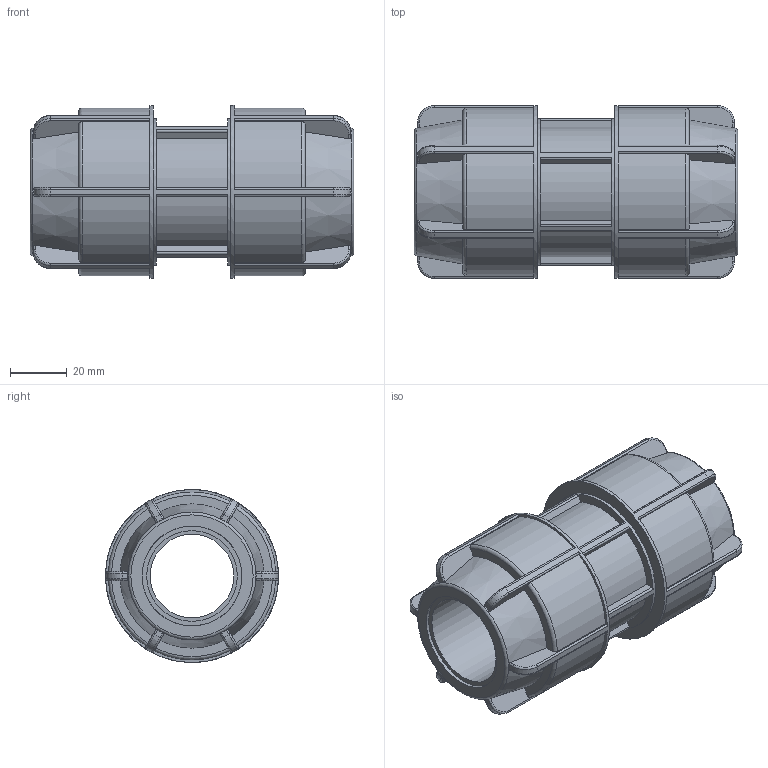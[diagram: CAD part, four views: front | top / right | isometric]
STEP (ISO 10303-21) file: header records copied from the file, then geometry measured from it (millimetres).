
FILE_DESCRIPTION(/* description */ ('PLASSON L.14 COUPLER (SILVER) 32'),/* implementation_level */ '2;1');
FILE_NAME(/* name */ 'C:\Dropbox\KIMPROJECTS-Inventor\99-16-3568-Processing\Silver Fittings\140100\140100032.ipt.stp',/* time_stamp */ '2018-06-12T15:52:42+03:00',/* author */ ('KIM'),/* organization */ (''),/* preprocessor_version */ 'ST-DEVELOPER v15.6',/* originating_system */ 'Autodesk Inventor 2015',/* authorisation */ '');
FILE_SCHEMA (('AUTOMOTIVE_DESIGN { 1 0 10303 214 3 1 1 }'));
Length unit declared in the file: millimetre
Products named in the file (1): 140100032
Bounding box: 114 x 61 x 61 mm (x, y, z)
Volume: 166025.6 mm3; surface area: 39641.9 mm2
Topology: 1 solids, 1 shells, 230 faces, 603 edges, 386 vertices
Faces by surface type: plane 92, cylinder 86, torus 26, bspline 24, cone 2
Full cylindrical faces by diameter (mm): 29.44 x1, 32 x2, 35.2 x2, 51.85 x1, 61 x2
Entity records: 8128 total; most frequent: CARTESIAN_POINT 2667, ORIENTED_EDGE 1164, DIRECTION 1110, EDGE_CURVE 582, AXIS2_PLACEMENT_3D 441, VERTEX_POINT 378, EDGE_LOOP 256, CIRCLE 234
